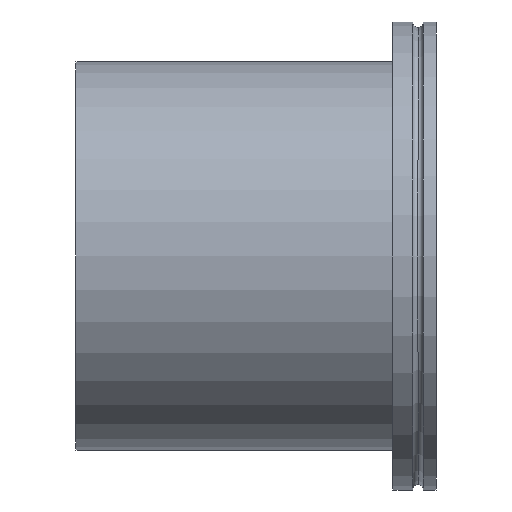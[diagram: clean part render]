
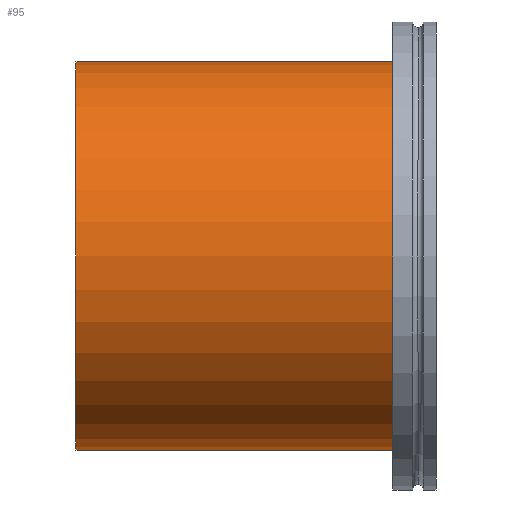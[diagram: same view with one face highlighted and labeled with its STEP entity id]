
A CAD part, left-side view. The second image highlights one B-rep face of the part: STEP entity #95.
In plain terms, the highlighted cylindrical face has radius 54 mm (diameter 108 mm), a partial arc.
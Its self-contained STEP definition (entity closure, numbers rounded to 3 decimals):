
#4 = CIRCLE ( 'NONE', #62, 54. ) ;
#19 = FACE_OUTER_BOUND ( 'NONE', #369, .T. ) ;
#26 = DIRECTION ( 'NONE',  ( 0., -1., 0. ) ) ;
#62 = AXIS2_PLACEMENT_3D ( 'NONE', #242, #663, #280 ) ;
#74 = CARTESIAN_POINT ( 'NONE',  ( 0., 8., 54. ) ) ;
#95 = ADVANCED_FACE ( 'NONE', ( #19 ), #522, .T. ) ;
#100 = VECTOR ( 'NONE', #222, 1000. ) ;
#102 = VERTEX_POINT ( 'NONE', #469 ) ;
#138 = CARTESIAN_POINT ( 'NONE',  ( 0., 100., -54. ) ) ;
#142 = ORIENTED_EDGE ( 'NONE', *, *, #532, .T. ) ;
#194 = VERTEX_POINT ( 'NONE', #138 ) ;
#215 = DIRECTION ( 'NONE',  ( 0., 0., 1. ) ) ;
#217 = CIRCLE ( 'NONE', #316, 54. ) ;
#222 = DIRECTION ( 'NONE',  ( 0., -1., 0. ) ) ;
#229 = CARTESIAN_POINT ( 'NONE',  ( 0., 100., 54. ) ) ;
#242 = CARTESIAN_POINT ( 'NONE',  ( 0., 8., 0. ) ) ;
#255 = ORIENTED_EDGE ( 'NONE', *, *, #477, .T. ) ;
#280 = DIRECTION ( 'NONE',  ( 0., 0., 1. ) ) ;
#285 = VERTEX_POINT ( 'NONE', #229 ) ;
#316 = AXIS2_PLACEMENT_3D ( 'NONE', #685, #689, #215 ) ;
#324 = EDGE_CURVE ( 'NONE', #285, #565, #595, .T. ) ;
#339 = CARTESIAN_POINT ( 'NONE',  ( 0., 100., 54. ) ) ;
#363 = CARTESIAN_POINT ( 'NONE',  ( 0., 100., 0. ) ) ;
#369 = EDGE_LOOP ( 'NONE', ( #551, #652, #255, #142 ) ) ;
#394 = DIRECTION ( 'NONE',  ( 0., -1., 0. ) ) ;
#410 = DIRECTION ( 'NONE',  ( 0., 0., -1. ) ) ;
#424 = AXIS2_PLACEMENT_3D ( 'NONE', #363, #26, #410 ) ;
#446 = VECTOR ( 'NONE', #394, 1000. ) ;
#459 = CARTESIAN_POINT ( 'NONE',  ( 0., 100., -54. ) ) ;
#469 = CARTESIAN_POINT ( 'NONE',  ( 0., 8., -54. ) ) ;
#472 = EDGE_CURVE ( 'NONE', #194, #285, #217, .T. ) ;
#477 = EDGE_CURVE ( 'NONE', #194, #102, #600, .T. ) ;
#522 = CYLINDRICAL_SURFACE ( 'NONE', #424, 54. ) ;
#532 = EDGE_CURVE ( 'NONE', #102, #565, #4, .T. ) ;
#551 = ORIENTED_EDGE ( 'NONE', *, *, #324, .F. ) ;
#565 = VERTEX_POINT ( 'NONE', #74 ) ;
#595 = LINE ( 'NONE', #339, #446 ) ;
#600 = LINE ( 'NONE', #459, #100 ) ;
#652 = ORIENTED_EDGE ( 'NONE', *, *, #472, .F. ) ;
#663 = DIRECTION ( 'NONE',  ( 0., 1., 0. ) ) ;
#685 = CARTESIAN_POINT ( 'NONE',  ( 0., 100., 0. ) ) ;
#689 = DIRECTION ( 'NONE',  ( 0., 1., 0. ) ) ;
